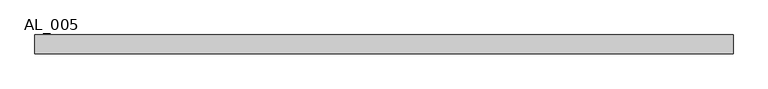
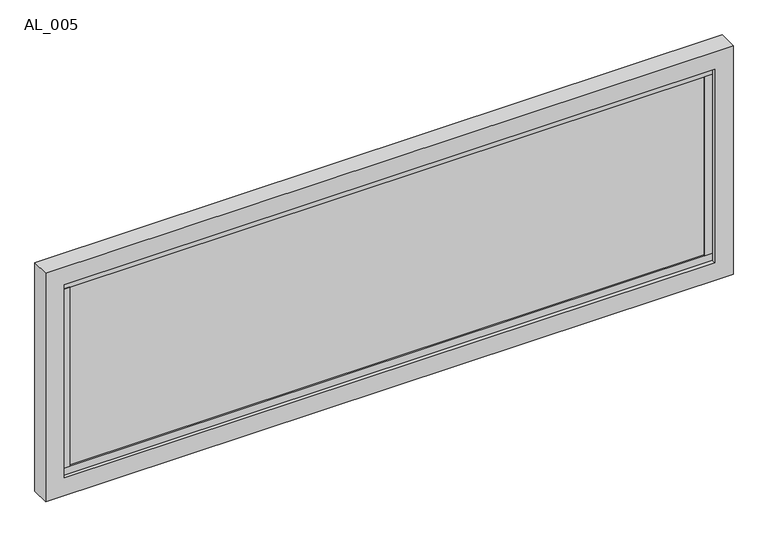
"""IFC4 building model written with IfcOpenShell, lengths in millimetres: plate geometry, TRP_CP_ARC_PF_RE : AL_005."""

from ifc_helpers import new_model, si_unit, frame, origin, place, context, project, spatial, polyline, outline, extrude, source, transform, mapped, element, save


def al_005_716bf069(model_context):
    return source(origin(), model_context, "Body", "SweptSolid", [
        extrude(outline(polyline([(855.0, -10.0), (-855.0, -10.0), (-855.0, 10.0), (855.0, 10.0), (855.0, -10.0)])), frame((0.0, 0.0, 70.0), z_axis=(0.0, 0.0, 1.0), x_axis=(1.0, 0.0, 0.0)), (0.0, 0.0, 1.0), 509.970898),
        extrude(outline(polyline([(875.0, -15.0), (855.0, -15.0), (855.0, 15.0), (875.0, 15.0), (875.0, -15.0)])), frame((0.0, 0.0, 70.0), z_axis=(0.0, 0.0, 1.0), x_axis=(1.0, 0.0, 0.0)), (0.0, 0.0, 1.0), 509.970898),
        extrude(outline(polyline([(-855.0, -15.0), (-875.0, -15.0), (-875.0, 15.0), (-855.0, 15.0), (-855.0, -15.0)])), frame((0.0, 0.0, 70.0), z_axis=(0.0, 0.0, 1.0), x_axis=(1.0, 0.0, 0.0)), (0.0, 0.0, 1.0), 509.970898),
        extrude(outline(polyline([(875.0, -15.0), (-875.0, -15.0), (-875.0, 15.0), (875.0, 15.0), (875.0, -15.0)])), frame((0.0, 0.0, 50.0), z_axis=(0.0, 0.0, 1.0), x_axis=(1.0, 0.0, 0.0)), (0.0, 0.0, 1.0), 20.0),
        extrude(outline(polyline([(875.0, -15.0), (-875.0, -15.0), (-875.0, 15.0), (875.0, 15.0), (875.0, -15.0)])), frame((0.0, 0.0, 579.970898), z_axis=(0.0, 0.0, 1.0), x_axis=(1.0, 0.0, 0.0)), (0.0, 0.0, 1.0), 20.0),
        extrude(outline(polyline([(649.970898, 925.0), (649.970898, -925.0), (0.0, -925.0), (0.0, 925.0), (649.970898, 925.0)]), holes=[polyline([(50.0, 875.0), (50.0, -875.0), (599.970898, -875.0), (599.970898, 875.0), (50.0, 875.0)])]), frame((0.0, -25.0, 0.0), z_axis=(0.0, 1.0, 0.0), x_axis=(0.0, 0.0, 1.0)), (0.0, 0.0, 1.0), 50.0),
    ])


if __name__ == "__main__":
    model = new_model("IFC4")
    model_context = context("Model", 3, world=origin())
    ifc_project = project(units=[si_unit("LENGTHUNIT", "METRE", prefix="MILLI")], contexts=[model_context])
    site = spatial("IfcSite", under=ifc_project)
    building = spatial("IfcBuilding", under=site)
    placement = place(None, origin())
    al_005_shape = al_005_716bf069(model_context)
    element("IfcPlate", 1, ObjectType="TRP_CP_ARC_PF_RE : AL_005", at=placement, inside=building, context=model_context, shape_type="MappedRepresentation", body=[
        mapped(al_005_shape, transform((0.0, 0.0, 0.0), x_axis=(1.0, 0.0, 0.0), y_axis=(0.0, 1.0, 0.0), z_axis=(0.0, 0.0, 1.0))),
    ])
    save(model, "model.ifc")
